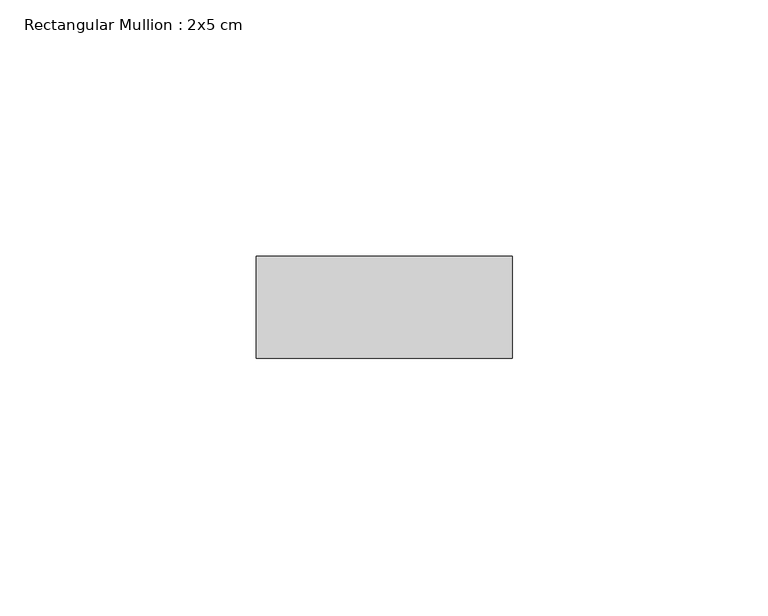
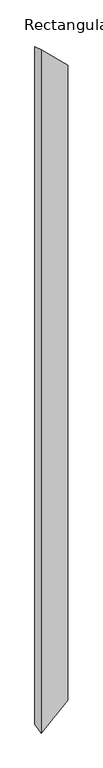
"""IFC4 building model written with IfcOpenShell, lengths in millimetres: member geometry, Rectangular Mullion : 2x5 cm."""

from ifc_helpers import new_model, si_unit, origin, place, context, project, spatial, faceted_brep, source, transform, mapped, element, save


def rectangular_mullion_2x5_cm_76aa6b56(model_context):
    return source(origin(), model_context, "Body", "Brep", [
        faceted_brep([(0.0, 20.0, -5.7469577), (50.0, 20.0, -53.638272), (50.0, 20.0, -1306.6218442), (0.0, 20.0, -1354.5131584), (0.0, 0.0, 0.0), (0.0, 0.0, -1360.2601162), (50.0, 0.0, -47.8913143), (50.0, 0.0, -1312.3688019)], [[[0, 1, 2, 3]], [[4, 0, 3, 5]], [[6, 4, 5, 7]], [[1, 6, 7, 2]], [[1, 0, 4, 6]], [[2, 7, 5, 3]]]),
    ])


if __name__ == "__main__":
    model = new_model("IFC4")
    model_context = context("Model", 3, world=origin())
    ifc_project = project(units=[si_unit("LENGTHUNIT", "METRE", prefix="MILLI")], contexts=[model_context])
    site = spatial("IfcSite", under=ifc_project)
    building = spatial("IfcBuilding", under=site)
    placement = place(None, origin())
    rectangular_mullion_2x5_cm_shape = rectangular_mullion_2x5_cm_76aa6b56(model_context)
    element("IfcMember", 1, ObjectType="Rectangular Mullion : 2x5 cm", at=placement, inside=building, context=model_context, shape_type="MappedRepresentation", body=[
        mapped(rectangular_mullion_2x5_cm_shape, transform((0.0, 0.0, 0.0), x_axis=(1.0, 0.0, 0.0), y_axis=(0.0, 1.0, 0.0), z_axis=(0.0, 0.0, 1.0))),
    ])
    save(model, "model.ifc")
